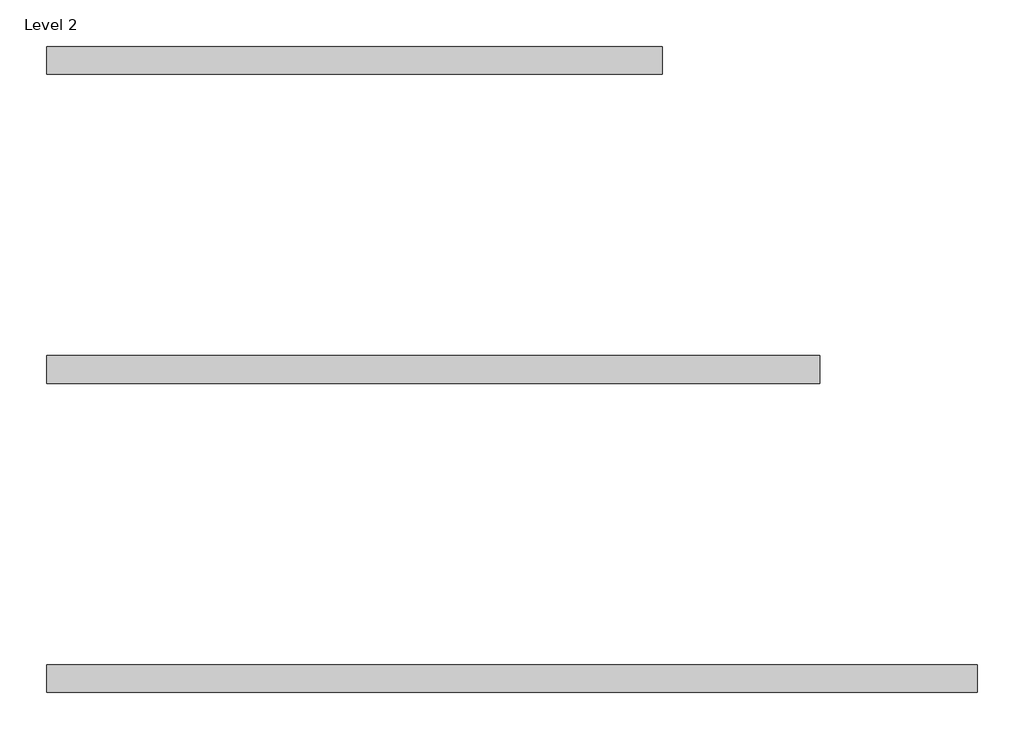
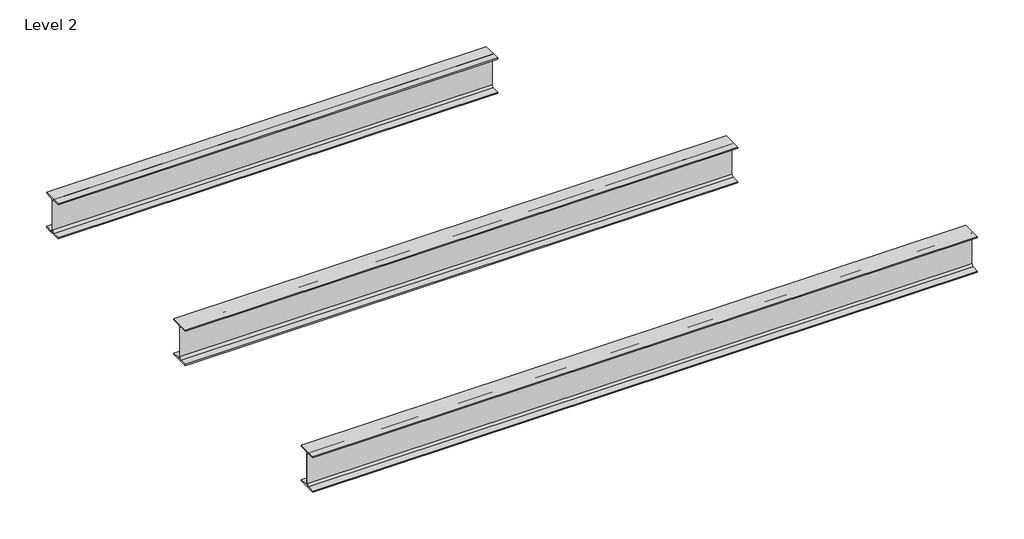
# One storey: 3 beams.
"""IFC4 building model written with IfcOpenShell, lengths in millimetres."""

import ifcopenshell
import ifcopenshell.guid

model = None  # the IFC model being written
_history = None  # IfcOwnerHistory: only IFC2X3 demands one
_inside = {}  # id of a spatial element -> (the spatial element, [elements in it])
_under = {}  # id of a project, library or spatial element -> (it, [spatial elements below it])
_declared = {}  # id of a project -> (the project, [libraries it declares])
_typed = {}  # id of a type object -> (the type object, [elements of that type])
_made_of = {}  # id of a material, layer set ... -> (it, [elements and type objects made of it])


def new_model(schema):
    """Start an empty IFC model of exactly this schema.

    Asked for "IFC4X3", IfcOpenShell would pick the latest addendum, in which some entities
    have other attributes; the version numbers below select the first issue.
    IFC2X3 requires an IfcOwnerHistory on every rooted entity: one is made here for all.
    """
    global model, _history
    if schema == "IFC4X3":
        model = ifcopenshell.file(schema_version=(4, 3, 0, 0))
    else:
        model = ifcopenshell.file(schema=schema)
    _inside.clear()
    _under.clear()
    _declared.clear()
    _typed.clear()
    _made_of.clear()
    _history = None
    if model.schema == "IFC2X3":
        org = make("IfcOrganization", Name="unknown")
        user = make(
            "IfcPersonAndOrganization",
            ThePerson=make("IfcPerson", FamilyName="unknown"),
            TheOrganization=org,
        )
        app = make(
            "IfcApplication",
            ApplicationDeveloper=org,
            Version="unknown",
            ApplicationFullName="unknown",
            ApplicationIdentifier="unknown",
        )
        _history = make(
            "IfcOwnerHistory",
            OwningUser=user,
            OwningApplication=app,
            ChangeAction="ADDED",
            CreationDate=0,
        )
    return model


def make(cls, **values):
    """One entity of the class cls with the attributes given. An attribute that is None is left unset."""
    return model.create_entity(
        cls, **{name: value for name, value in values.items() if value is not None}
    )


def rooted(cls, **values):
    """An entity with a GlobalId (a new one), such as an element, a storey or a relation."""
    return make(cls, GlobalId=ifcopenshell.guid.new(), OwnerHistory=_history, **values)


def si_unit(unit_type, name, prefix=None):
    """IfcSIUnit, for example si_unit("LENGTHUNIT", "METRE", prefix="MILLI")."""
    return make("IfcSIUnit", UnitType=unit_type, Prefix=prefix, Name=name)


def assignment(units):
    """IfcUnitAssignment: the units of a project."""
    return None if units is None else make("IfcUnitAssignment", Units=units)


def point(xyz):
    """IfcCartesianPoint."""
    return None if xyz is None else make("IfcCartesianPoint", Coordinates=xyz)


def direction(xyz):
    """IfcDirection."""
    return None if xyz is None else make("IfcDirection", DirectionRatios=xyz)


def frame(location, z_axis=None, x_axis=None):
    """IfcAxis2Placement3D, a coordinate frame: its origin and axes. An axis left out is left unset."""
    return make(
        "IfcAxis2Placement3D",
        Location=point(location),
        Axis=direction(z_axis),
        RefDirection=direction(x_axis),
    )


def frame_2d(location, x_axis=None):
    """IfcAxis2Placement2D, a coordinate frame in the plane: its origin and x axis."""
    return make(
        "IfcAxis2Placement2D", Location=point(location), RefDirection=direction(x_axis)
    )


def origin():
    """The frame at (0, 0, 0) with its axes left unset."""
    return frame((0.0, 0.0, 0.0))


def place(relative_to, where):
    """IfcLocalPlacement: puts the frame where relative to a parent placement (None: the world)."""
    return make(
        "IfcLocalPlacement", PlacementRelTo=relative_to, RelativePlacement=where
    )


def context(
    kind, dimensions, precision=None, world=None, true_north=None, identifier=None
):
    """IfcGeometricRepresentationContext, for example the 3D "Model" context."""
    return make(
        "IfcGeometricRepresentationContext",
        ContextIdentifier=identifier,
        ContextType=kind,
        CoordinateSpaceDimension=dimensions,
        Precision=precision,
        WorldCoordinateSystem=world,
        TrueNorth=true_north,
    )


def project(units=None, contexts=None):
    """IfcProject with its units and contexts."""
    return rooted(
        "IfcProject",
        Name="project",
        RepresentationContexts=contexts,
        UnitsInContext=assignment(units),
    )


def spatial(cls, under=None, at=None, **own):
    """A site, building, storey or space (cls), placed at a placement, below another one or the project."""
    s = rooted(cls, ObjectPlacement=at, **own)
    if under is not None:
        _under.setdefault(under.id(), (under, []))[1].append(s)
    return s


def polyline(points):
    """IfcPolyline through the points."""
    return make("IfcPolyline", Points=[point(p) for p in points])


def circle_curve(where, radius):
    """IfcCircle in the frame where."""
    return make("IfcCircle", Position=where, Radius=radius)


def trimmed(basis, trim1, trim2, sense, master):
    """IfcTrimmedCurve: the piece of a basis curve between two trims."""
    return make(
        "IfcTrimmedCurve",
        BasisCurve=basis,
        Trim1=trim1,
        Trim2=trim2,
        SenseAgreement=sense,
        MasterRepresentation=master,
    )


def segment(curve, same_sense, transition):
    """IfcCompositeCurveSegment."""
    return make(
        "IfcCompositeCurveSegment",
        Transition=transition,
        SameSense=same_sense,
        ParentCurve=curve,
    )


def composite_curve(segments, self_intersect=None):
    """IfcCompositeCurve: segments joined end to end."""
    return make("IfcCompositeCurve", Segments=segments, SelfIntersect=self_intersect)


def outline(outer, holes=None, kind="AREA"):
    """IfcArbitraryClosedProfileDef: a profile drawn as a closed curve; with holes, ...WithVoids."""
    if holes is None:
        return make("IfcArbitraryClosedProfileDef", ProfileType=kind, OuterCurve=outer)
    return make(
        "IfcArbitraryProfileDefWithVoids",
        ProfileType=kind,
        OuterCurve=outer,
        InnerCurves=holes,
    )


def extrude(swept, where, along, depth):
    """IfcExtrudedAreaSolid: the profile swept, set in the frame where, extruded along a direction by depth."""
    return make(
        "IfcExtrudedAreaSolid",
        SweptArea=swept,
        Position=where,
        ExtrudedDirection=direction(along),
        Depth=depth,
    )


def shape(context_of_items, identifier, shape_type, items):
    """IfcShapeRepresentation: the items that make up one representation, for example the "Body"."""
    return make(
        "IfcShapeRepresentation",
        ContextOfItems=context_of_items,
        RepresentationIdentifier=identifier,
        RepresentationType=shape_type,
        Items=items,
    )


def source(mapping_origin, context_of_items, identifier, shape_type, items):
    """IfcRepresentationMap: a shape defined once, which mapped items show again and again."""
    return make(
        "IfcRepresentationMap",
        MappingOrigin=mapping_origin,
        MappedRepresentation=shape(context_of_items, identifier, shape_type, items),
    )


def transform(
    local_origin,
    x_axis=None,
    y_axis=None,
    z_axis=None,
    scale=None,
    scale2=None,
    scale3=None,
    uniform=True,
):
    """IfcCartesianTransformationOperator3D, or its non-uniform kind. x_axis, y_axis, z_axis: its Axis1, 2, 3."""
    if uniform:
        return make(
            "IfcCartesianTransformationOperator3D",
            Axis1=direction(x_axis),
            Axis2=direction(y_axis),
            LocalOrigin=point(local_origin),
            Scale=scale,
            Axis3=direction(z_axis),
        )
    return make(
        "IfcCartesianTransformationOperator3DnonUniform",
        Axis1=direction(x_axis),
        Axis2=direction(y_axis),
        LocalOrigin=point(local_origin),
        Scale=scale,
        Axis3=direction(z_axis),
        Scale2=scale2,
        Scale3=scale3,
    )


def mapped(mapping_source, mapping_target):
    """IfcMappedItem: shows the shape of a source again, moved by a transform."""
    return make(
        "IfcMappedItem", MappingSource=mapping_source, MappingTarget=mapping_target
    )


def made_of(thing, what):
    """Note that an element or type object is made of a material, layer set ...; save() writes the relation."""
    if what is not None:
        _made_of.setdefault(what.id(), (what, []))[1].append(thing)
    return thing


def element(
    cls,
    number,
    at=None,
    inside=None,
    cuts=None,
    type_object=None,
    material=None,
    context=None,
    identifier="Body",
    shape_type=None,
    held_by="IfcProductDefinitionShape",
    body=None,
    shapes=None,
    **own,
):
    """One element of the class cls, such as IfcWall. Its Tag is "e" and its number.

    at: its placement. inside: the storey or other place that contains it. cuts: it is an
    opening in that element (IfcRelVoidsElement). A single representation is given by context,
    identifier, shape_type and body (its items); several are given by shapes. held_by: the class
    of the entity that holds the representations. save() writes the other relations.
    """
    e = rooted(cls, Tag="e%d" % number, ObjectPlacement=at, **own)
    if body is not None:
        shapes = [shape(context, identifier, shape_type, body)]
    if shapes is not None:
        e.Representation = make(held_by, Representations=shapes)
    if inside is not None:
        _inside.setdefault(inside.id(), (inside, []))[1].append(e)
    if cuts is not None:
        rooted(
            "IfcRelVoidsElement", RelatingBuildingElement=cuts, RelatedOpeningElement=e
        )
    if type_object is not None:
        _typed.setdefault(type_object.id(), (type_object, []))[1].append(e)
    return made_of(e, material)


def aggregate(whole, parts):
    """IfcRelAggregates: a whole, such as a stair, and the parts it consists of."""
    return rooted("IfcRelAggregates", RelatingObject=whole, RelatedObjects=parts)


def save(model, path):
    """Write the relations noted so far, then the file.

    IfcRelAggregates (storeys below a building ...), IfcRelContainedInSpatialStructure (elements
    in a storey), IfcRelDefinesByType, IfcRelAssociatesMaterial and IfcRelDeclares: one each for
    every whole, place, type object, material and project.
    """
    for whole, parts in _under.values():
        aggregate(whole, parts)
    for where, things in _inside.values():
        rooted(
            "IfcRelContainedInSpatialStructure",
            RelatedElements=things,
            RelatingStructure=where,
        )
    for kind, things in _typed.values():
        rooted("IfcRelDefinesByType", RelatedObjects=things, RelatingType=kind)
    for what, things in _made_of.values():
        rooted("IfcRelAssociatesMaterial", RelatedObjects=things, RelatingMaterial=what)
    for by, libraries in _declared.values():
        rooted("IfcRelDeclares", RelatingContext=by, RelatedDefinitions=libraries)
    model.write(path)


def w_wide_flange_w12x26_2d7df239(model_context):
    return source(origin(), model_context, "Body", "SweptSolid", [
        extrude(outline(composite_curve([segment(polyline([(82.4011719, -145.5539063), (82.4011719, -155.178125), (-82.4011719, -155.178125), (-82.4011719, -145.5539063), (-20.2902344, -145.5539063)]), True, "CONTINUOUS"), segment(trimmed(circle_curve(frame_2d((-20.2902344, -128.190625)), 17.3632812), [point((-20.2902344, -145.5539063))], [point((-2.9269531, -128.190625))], True, "CARTESIAN"), True, "CONTINUOUS"), segment(polyline([(-2.9269531, -128.190625), (-2.9269531, 128.190625)]), True, "CONTINUOUS"), segment(trimmed(circle_curve(frame_2d((-20.2902344, 128.190625)), 17.3632812), [point((-2.9269531, 128.190625))], [point((-20.2902344, 145.5539062))], True, "CARTESIAN"), True, "CONTINUOUS"), segment(polyline([(-20.2902344, 145.5539062), (-82.4011719, 145.5539062), (-82.4011719, 155.178125), (82.4011719, 155.178125), (82.4011719, 145.5539062), (20.2902344, 145.5539062)]), True, "CONTINUOUS"), segment(trimmed(circle_curve(frame_2d((20.2902344, 128.190625)), 17.3632812), [point((20.2902344, 145.5539062))], [point((2.9269531, 128.190625))], True, "CARTESIAN"), True, "CONTINUOUS"), segment(polyline([(2.9269531, 128.190625), (2.9269531, -128.190625)]), True, "CONTINUOUS"), segment(trimmed(circle_curve(frame_2d((20.2902344, -128.190625)), 17.3632812), [point((2.9269531, -128.190625))], [point((20.2902344, -145.5539063))], True, "CARTESIAN"), True, "CONTINUOUS"), segment(polyline([(20.2902344, -145.5539063), (82.4011719, -145.5539063)]), True, "CONTINUOUS")], self_intersect=False)), frame((-2725.4602969, 0.0, 0.0), z_axis=(1.0, 0.0, 0.0), x_axis=(0.0, 1.0, 0.0)), (0.0, 0.0, 1.0), 5505.3344337),
    ])


def w_wide_flange_w12x26_de92a1e1(model_context):
    return source(origin(), model_context, "Body", "SweptSolid", [
        extrude(outline(composite_curve([segment(polyline([(82.4011719, -145.5539063), (82.4011719, -155.178125), (-82.4011719, -155.178125), (-82.4011719, -145.5539063), (-20.2902344, -145.5539063)]), True, "CONTINUOUS"), segment(trimmed(circle_curve(frame_2d((-20.2902344, -128.190625)), 17.3632812), [point((-20.2902344, -145.5539063))], [point((-2.9269531, -128.190625))], True, "CARTESIAN"), True, "CONTINUOUS"), segment(polyline([(-2.9269531, -128.190625), (-2.9269531, 128.190625)]), True, "CONTINUOUS"), segment(trimmed(circle_curve(frame_2d((-20.2902344, 128.190625)), 17.3632812), [point((-2.9269531, 128.190625))], [point((-20.2902344, 145.5539062))], True, "CARTESIAN"), True, "CONTINUOUS"), segment(polyline([(-20.2902344, 145.5539062), (-82.4011719, 145.5539062), (-82.4011719, 155.178125), (82.4011719, 155.178125), (82.4011719, 145.5539062), (20.2902344, 145.5539062)]), True, "CONTINUOUS"), segment(trimmed(circle_curve(frame_2d((20.2902344, 128.190625)), 17.3632812), [point((20.2902344, 145.5539062))], [point((2.9269531, 128.190625))], True, "CARTESIAN"), True, "CONTINUOUS"), segment(polyline([(2.9269531, 128.190625), (2.9269531, -128.190625)]), True, "CONTINUOUS"), segment(trimmed(circle_curve(frame_2d((20.2902344, -128.190625)), 17.3632812), [point((2.9269531, -128.190625))], [point((20.2902344, -145.5539063))], True, "CARTESIAN"), True, "CONTINUOUS"), segment(polyline([(20.2902344, -145.5539063), (82.4011719, -145.5539063)]), True, "CONTINUOUS")], self_intersect=False)), frame((-2259.5502259, 0.0, 0.0), z_axis=(1.0, 0.0, 0.0), x_axis=(0.0, 1.0, 0.0)), (0.0, 0.0, 1.0), 4573.5142917),
    ])


def w_wide_flange_w12x26_c037be30(model_context):
    return source(origin(), model_context, "Body", "SweptSolid", [
        extrude(outline(composite_curve([segment(polyline([(82.4011719, -145.5539063), (82.4011719, -155.178125), (-82.4011719, -155.178125), (-82.4011719, -145.5539063), (-20.2902344, -145.5539063)]), True, "CONTINUOUS"), segment(trimmed(circle_curve(frame_2d((-20.2902344, -128.190625)), 17.3632812), [point((-20.2902344, -145.5539063))], [point((-2.9269531, -128.190625))], True, "CARTESIAN"), True, "CONTINUOUS"), segment(polyline([(-2.9269531, -128.190625), (-2.9269531, 128.190625)]), True, "CONTINUOUS"), segment(trimmed(circle_curve(frame_2d((-20.2902344, 128.190625)), 17.3632812), [point((-2.9269531, 128.190625))], [point((-20.2902344, 145.5539062))], True, "CARTESIAN"), True, "CONTINUOUS"), segment(polyline([(-20.2902344, 145.5539062), (-82.4011719, 145.5539062), (-82.4011719, 155.178125), (82.4011719, 155.178125), (82.4011719, 145.5539062), (20.2902344, 145.5539062)]), True, "CONTINUOUS"), segment(trimmed(circle_curve(frame_2d((20.2902344, 128.190625)), 17.3632812), [point((20.2902344, 145.5539062))], [point((2.9269531, 128.190625))], True, "CARTESIAN"), True, "CONTINUOUS"), segment(polyline([(2.9269531, 128.190625), (2.9269531, -128.190625)]), True, "CONTINUOUS"), segment(trimmed(circle_curve(frame_2d((20.2902344, -128.190625)), 17.3632812), [point((2.9269531, -128.190625))], [point((20.2902344, -145.5539063))], True, "CARTESIAN"), True, "CONTINUOUS"), segment(polyline([(20.2902344, -145.5539063), (82.4011719, -145.5539063)]), True, "CONTINUOUS")], self_intersect=False)), frame((-1793.6401549, 0.0, 0.0), z_axis=(1.0, 0.0, 0.0), x_axis=(0.0, 1.0, 0.0)), (0.0, 0.0, 1.0), 3641.6941497),
    ])


model = new_model("IFC4")

# Units and contexts
model_context = context("Model", 3, world=origin())
ifc_project = project(units=[si_unit("LENGTHUNIT", "METRE", prefix="MILLI")], contexts=[model_context])

# Site, building, storey
site = spatial("IfcSite", under=ifc_project)
building = spatial("IfcBuilding", under=site)
storey = spatial("IfcBuildingStorey", under=building, Name="Level 2", Elevation=3048.0)

# Beams
placement = place(None, origin())
w_wide_flange_w12x26_shape = w_wide_flange_w12x26_2d7df239(model_context)
element("IfcBeam", 1, ObjectType="W-Wide Flange : W12X26", at=placement, inside=storey, context=model_context, shape_type="MappedRepresentation", body=[
    mapped(w_wide_flange_w12x26_shape, transform((-12049.052399, 9760.161167, 2892.821875), x_axis=(-1.0, 0.0, 0.0), y_axis=(0.0, -1.0, 0.0), z_axis=(0.0, 0.0, 1.0))),
])
w_wide_flange_w12x26_2_shape = w_wide_flange_w12x26_de92a1e1(model_context)
element("IfcBeam", 2, ObjectType="W-Wide Flange : W12X26", at=placement, inside=storey, context=model_context, shape_type="MappedRepresentation", body=[
    mapped(w_wide_flange_w12x26_2_shape, transform((-12514.96247, 11588.961167, 2892.821875), x_axis=(-1.0, 0.0, 0.0), y_axis=(0.0, -1.0, 0.0), z_axis=(0.0, 0.0, 1.0))),
])
w_wide_flange_w12x26_3_shape = w_wide_flange_w12x26_c037be30(model_context)
element("IfcBeam", 3, ObjectType="W-Wide Flange : W12X26", at=placement, inside=storey, context=model_context, shape_type="MappedRepresentation", body=[
    mapped(w_wide_flange_w12x26_3_shape, transform((-12980.872541, 13417.761167, 2892.821875), x_axis=(-1.0, 0.0, 0.0), y_axis=(0.0, -1.0, 0.0), z_axis=(0.0, 0.0, 1.0))),
])

save(model, "model.ifc")
